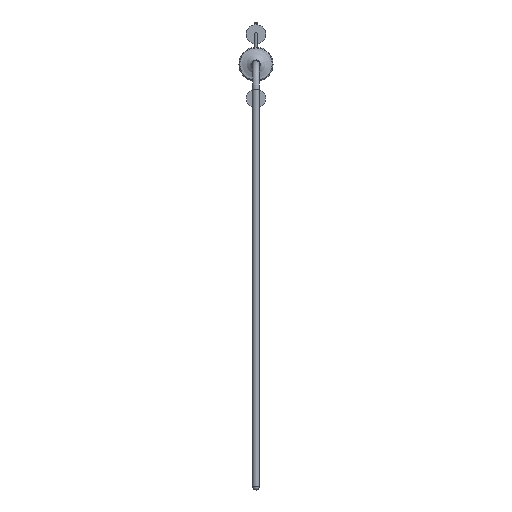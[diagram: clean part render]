
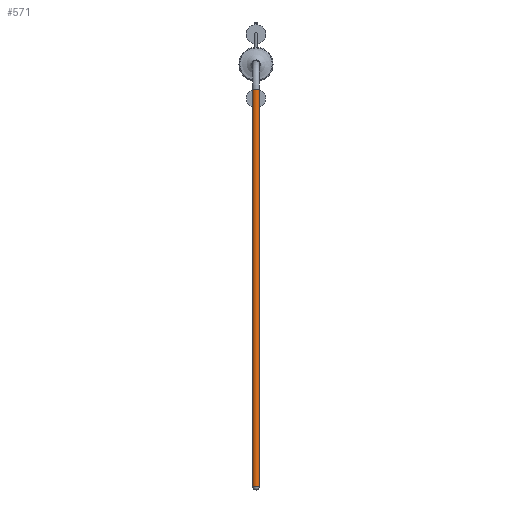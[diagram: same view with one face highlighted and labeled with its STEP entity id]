
A CAD part, top view. The second image highlights one B-rep face of the part: STEP entity #571.
In plain terms, the highlighted cylindrical face has radius 0.8 mm (diameter 1.6 mm), a full revolution.
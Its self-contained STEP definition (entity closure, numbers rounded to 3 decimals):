
#77 = DIRECTION ( 'NONE',  ( 0., -1., 0. ) ) ;
#100 = CIRCLE ( 'NONE', #2197, 0.8 ) ;
#122 = EDGE_LOOP ( 'NONE', ( #463 ) ) ;
#147 = CARTESIAN_POINT ( 'NONE',  ( -0.8, -99.25, 24. ) ) ;
#192 = DIRECTION ( 'NONE',  ( -1., 0., 0. ) ) ;
#352 = EDGE_LOOP ( 'NONE', ( #596 ) ) ;
#463 = ORIENTED_EDGE ( 'NONE', *, *, #1984, .T. ) ;
#571 = ADVANCED_FACE ( 'NONE', ( #790, #2237 ), #2204, .T. ) ;
#596 = ORIENTED_EDGE ( 'NONE', *, *, #1354, .T. ) ;
#630 = AXIS2_PLACEMENT_3D ( 'NONE', #2049, #77, #1485 ) ;
#700 = VERTEX_POINT ( 'NONE', #1200 ) ;
#790 = FACE_OUTER_BOUND ( 'NONE', #352, .T. ) ;
#916 = DIRECTION ( 'NONE',  ( 0., 1., 0. ) ) ;
#1200 = CARTESIAN_POINT ( 'NONE',  ( -0.8, -6., 24. ) ) ;
#1278 = CARTESIAN_POINT ( 'NONE',  ( 0., -99.25, 24. ) ) ;
#1354 = EDGE_CURVE ( 'NONE', #1557, #1557, #1409, .T. ) ;
#1409 = CIRCLE ( 'NONE', #2046, 0.8 ) ;
#1485 = DIRECTION ( 'NONE',  ( 0., 0., 1. ) ) ;
#1557 = VERTEX_POINT ( 'NONE', #147 ) ;
#1633 = DIRECTION ( 'NONE',  ( -1., 0., 0. ) ) ;
#1804 = DIRECTION ( 'NONE',  ( 0., -1., 0. ) ) ;
#1984 = EDGE_CURVE ( 'NONE', #700, #700, #100, .T. ) ;
#2046 = AXIS2_PLACEMENT_3D ( 'NONE', #1278, #916, #1633 ) ;
#2049 = CARTESIAN_POINT ( 'NONE',  ( 0., -6., 24. ) ) ;
#2197 = AXIS2_PLACEMENT_3D ( 'NONE', #2286, #1804, #192 ) ;
#2204 = CYLINDRICAL_SURFACE ( 'NONE', #630, 0.8 ) ;
#2237 = FACE_OUTER_BOUND ( 'NONE', #122, .T. ) ;
#2286 = CARTESIAN_POINT ( 'NONE',  ( 0., -6., 24. ) ) ;
